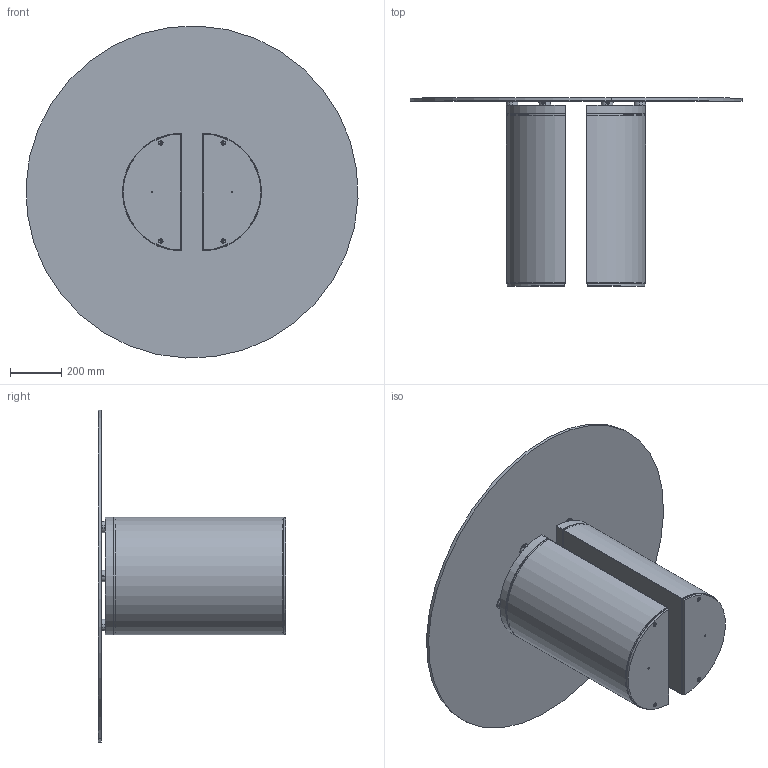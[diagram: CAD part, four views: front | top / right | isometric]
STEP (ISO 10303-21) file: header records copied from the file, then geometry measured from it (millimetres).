
FILE_DESCRIPTION (( 'STEP AP203' ), '1' );
FILE_NAME ('130.STEP', '2024-08-06T14:27:05', ( '' ), ( '' ), 'SwSTEP 2.0', 'SolidWorks 2022', '' );
FILE_SCHEMA (( 'CONFIG_CONTROL_DESIGN' ));
Length unit declared in the file: millimetre
Products named in the file (12): PIASTRE DOPPIE D.46 PER TRASPARENTE FEMMINA_Ø46; CXXCRXXD-01-Piani Rotondi in Cristallo CON DISCO_C05CR0DR PIANO CRISTALLO Ø130cm DORA; PLA000000ZOC-01-PLAI ZOCCOLO DELLA BASE; Assieme Basamento PLAI_basamento per trasparente; M8xXXmm_M8x50mm; PIASTRE DOPPIE D.46 PER TRASPARENTE MASCHIO_Ø46; PLA000000SPE-01-SPESSORE PER PLAI TRASPARENTE; PLA000000BAS-00-PLAI BASE GREZZA; M8xXXmm_hex_M8X20mm; 130; Grano M6_M6x8; C1XCRMXX-00-piani Rotondi Cristallo TRASPARENTE_C05 D.130cm
Assembly tree (25 placements, depth 3):
  130
    Assieme Basamento PLAI_basamento per trasparente  x2
      PLA000000BAS-00-PLAI BASE GREZZA
      PLA000000SPE-01-SPESSORE PER PLAI TRASPARENTE
      PIASTRE DOPPIE D.46 PER TRASPARENTE FEMMINA_Ø46
      PLA000000ZOC-01-PLAI ZOCCOLO DELLA BASE
      M8xXXmm_M8x50mm
      M8xXXmm_hex_M8X20mm
    Grano M6_M6x8  x4
    CXXCRXXD-01-Piani Rotondi in Cristallo CON DISCO_C05CR0DR PIANO CRISTALLO Ø130cm DORA
      C1XCRMXX-00-piani Rotondi Cristallo TRASPARENTE_C05 D.130cm
      PIASTRE DOPPIE D.46 PER TRASPARENTE MASCHIO_Ø46  x6
    PIASTRE DOPPIE D.46 PER TRASPARENTE FEMMINA_Ø46  x2
Bounding box: 1299.03 x 735.5 x 1299.03 mm (x, y, z)
Volume: 27435034 mm3; surface area: 7058223.5 mm2
Topology: 37 solids, 37 shells, 734 faces, 1634 edges, 982 vertices
Faces by surface type: plane 286, cylinder 264, cone 148, torus 24, bspline 12
Entity records: 8619 total; most frequent: CARTESIAN_POINT 2325, DIRECTION 1042, ORIENTED_EDGE 906, EDGE_CURVE 453, AXIS2_PLACEMENT_3D 417, VERTEX_POINT 279, EDGE_LOOP 238, VECTOR 208
